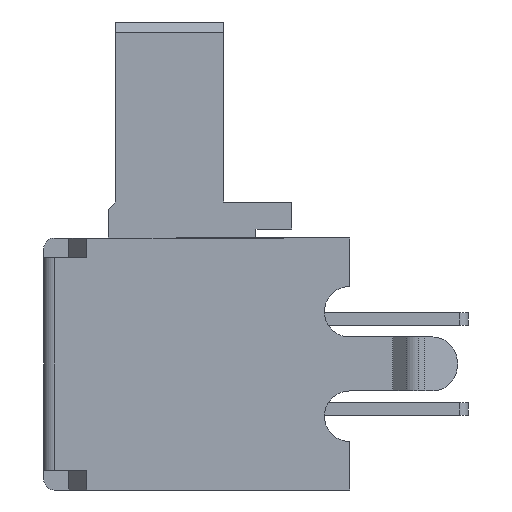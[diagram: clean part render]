
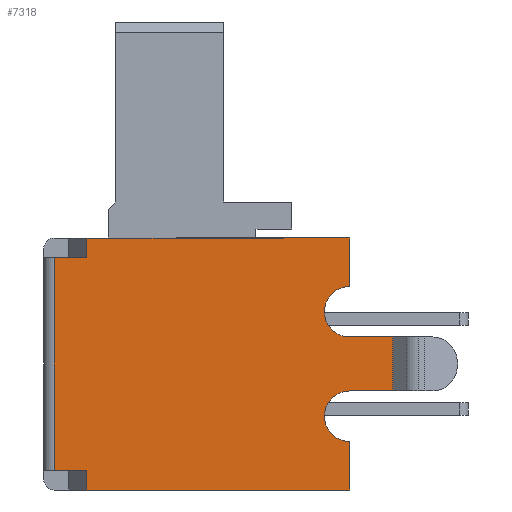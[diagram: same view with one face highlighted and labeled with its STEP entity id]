
A CAD part, left-side view. The second image highlights one B-rep face of the part: STEP entity #7318.
In plain terms, the highlighted planar face has unit normal (-1, 0, 0).
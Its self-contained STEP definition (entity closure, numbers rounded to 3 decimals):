
#119 = VERTEX_POINT ( 'NONE', #7612 ) ;
#2187 = CARTESIAN_POINT ( 'NONE',  ( -8.25, 7.3, -2.95 ) ) ;
#2207 = CARTESIAN_POINT ( 'NONE',  ( -8.25, 8.5, -2.95 ) ) ;
#2208 = LINE ( 'NONE', #2207, #2268 ) ;
#2222 = CARTESIAN_POINT ( 'NONE',  ( -8.25, 7.3, 2.95 ) ) ;
#2266 = CARTESIAN_POINT ( 'NONE',  ( -8.25, 8.2, -2.95 ) ) ;
#2267 = DIRECTION ( 'NONE',  ( 0., 1., 0. ) ) ;
#2268 = VECTOR ( 'NONE', #2267, 1000. ) ;
#2329 = DIRECTION ( 'NONE',  ( 0., -1., 0. ) ) ;
#2330 = VECTOR ( 'NONE', #2329, 1000. ) ;
#2331 = CARTESIAN_POINT ( 'NONE',  ( -8.25, 8.5, 2.95 ) ) ;
#2332 = LINE ( 'NONE', #2331, #2330 ) ;
#2333 = CARTESIAN_POINT ( 'NONE',  ( -8.25, 8.2, 2.95 ) ) ;
#5252 = LINE ( 'NONE', #5308, #5307 ) ;
#5253 = DIRECTION ( 'NONE',  ( 0., 1., 0. ) ) ;
#5254 = VECTOR ( 'NONE', #5253, 1000. ) ;
#5255 = CARTESIAN_POINT ( 'NONE',  ( -8.25, -1.2, -0.75 ) ) ;
#5256 = LINE ( 'NONE', #5255, #5254 ) ;
#5257 = CARTESIAN_POINT ( 'NONE',  ( -8.25, -1.2, -0.75 ) ) ;
#5258 = DIRECTION ( 'NONE',  ( 0., 0., -1. ) ) ;
#5259 = VECTOR ( 'NONE', #5258, 1000. ) ;
#5260 = CARTESIAN_POINT ( 'NONE',  ( -8.25, -1.2, 0.75 ) ) ;
#5261 = LINE ( 'NONE', #5260, #5259 ) ;
#5262 = CARTESIAN_POINT ( 'NONE',  ( -8.25, 0., -0.75 ) ) ;
#5263 = CARTESIAN_POINT ( 'NONE',  ( -8.25, 0., -3.5 ) ) ;
#5264 = CARTESIAN_POINT ( 'NONE',  ( -8.25, 0., -2.15 ) ) ;
#5265 = DIRECTION ( 'NONE',  ( 0., 0., -1. ) ) ;
#5266 = VECTOR ( 'NONE', #5265, 1000. ) ;
#5267 = CARTESIAN_POINT ( 'NONE',  ( -8.25, 7.3, -3. ) ) ;
#5268 = LINE ( 'NONE', #5267, #5266 ) ;
#5269 = CARTESIAN_POINT ( 'NONE',  ( -8.25, -1.2, 0.75 ) ) ;
#5286 = DIRECTION ( 'NONE',  ( 0., 0., 1. ) ) ;
#5287 = DIRECTION ( 'NONE',  ( -1., 0., 0. ) ) ;
#5288 = CARTESIAN_POINT ( 'NONE',  ( -8.25, 8., -3.5 ) ) ;
#5289 = AXIS2_PLACEMENT_3D ( 'NONE', #5288, #5287, #5286 ) ;
#5290 = PLANE ( 'NONE',  #5289 ) ;
#5291 = FACE_OUTER_BOUND ( 'NONE', #7311, .T. ) ;
#5306 = DIRECTION ( 'NONE',  ( 0., 1., 0. ) ) ;
#5307 = VECTOR ( 'NONE', #5306, 1000. ) ;
#5308 = CARTESIAN_POINT ( 'NONE',  ( -8.25, 7.3, -3.5 ) ) ;
#5345 = DIRECTION ( 'NONE',  ( 0., 0., 1. ) ) ;
#5346 = VECTOR ( 'NONE', #5345, 1000. ) ;
#5347 = CARTESIAN_POINT ( 'NONE',  ( -8.25, 7.3, 3. ) ) ;
#5348 = LINE ( 'NONE', #5347, #5346 ) ;
#5349 = CARTESIAN_POINT ( 'NONE',  ( -8.25, 0., 0.75 ) ) ;
#5372 = DIRECTION ( 'NONE',  ( 0., 0., -1. ) ) ;
#5373 = VECTOR ( 'NONE', #5372, 1000. ) ;
#5374 = CARTESIAN_POINT ( 'NONE',  ( -8.25, 8.2, -3.5 ) ) ;
#5375 = LINE ( 'NONE', #5374, #5373 ) ;
#5376 = CARTESIAN_POINT ( 'NONE',  ( -8.25, 0., 2.15 ) ) ;
#5377 = DIRECTION ( 'NONE',  ( 0., 0., -1. ) ) ;
#5378 = VECTOR ( 'NONE', #5377, 1000. ) ;
#5379 = CARTESIAN_POINT ( 'NONE',  ( -8.25, 0., 3.5 ) ) ;
#5380 = LINE ( 'NONE', #5379, #5378 ) ;
#5381 = CARTESIAN_POINT ( 'NONE',  ( -8.25, 7.3, 3.5 ) ) ;
#5382 = CARTESIAN_POINT ( 'NONE',  ( -8.25, 0., 3.5 ) ) ;
#5383 = DIRECTION ( 'NONE',  ( 0., 1., 0. ) ) ;
#5384 = VECTOR ( 'NONE', #5383, 1000. ) ;
#5385 = CARTESIAN_POINT ( 'NONE',  ( -8.25, -1.2, 0.75 ) ) ;
#5386 = LINE ( 'NONE', #5385, #5384 ) ;
#5387 = DIRECTION ( 'NONE',  ( 0., 1., 0. ) ) ;
#5388 = VECTOR ( 'NONE', #5387, 1000. ) ;
#5389 = CARTESIAN_POINT ( 'NONE',  ( -8.25, 7.3, 3.5 ) ) ;
#5390 = LINE ( 'NONE', #5389, #5388 ) ;
#5398 = DIRECTION ( 'NONE',  ( 0., 0., -1. ) ) ;
#5399 = DIRECTION ( 'NONE',  ( -1., 0., 0. ) ) ;
#5400 = CARTESIAN_POINT ( 'NONE',  ( -8.25, 0., 1.45 ) ) ;
#5401 = AXIS2_PLACEMENT_3D ( 'NONE', #5400, #5399, #5398 ) ;
#5402 = CIRCLE ( 'NONE', #5401, 0.7 ) ;
#5423 = DIRECTION ( 'NONE',  ( 0., 0., 1. ) ) ;
#5424 = DIRECTION ( 'NONE',  ( -1., 0., 0. ) ) ;
#5425 = CARTESIAN_POINT ( 'NONE',  ( -8.25, 0., -1.45 ) ) ;
#5426 = AXIS2_PLACEMENT_3D ( 'NONE', #5425, #5424, #5423 ) ;
#5427 = CIRCLE ( 'NONE', #5426, 0.7 ) ;
#5428 = DIRECTION ( 'NONE',  ( 0., 0., -1. ) ) ;
#5429 = VECTOR ( 'NONE', #5428, 1000. ) ;
#5430 = CARTESIAN_POINT ( 'NONE',  ( -8.25, 0., -3.5 ) ) ;
#5431 = LINE ( 'NONE', #5430, #5429 ) ;
#6308 = VERTEX_POINT ( 'NONE', #2187 ) ;
#6320 = VERTEX_POINT ( 'NONE', #2222 ) ;
#6331 = EDGE_CURVE ( 'NONE', #6308, #6332, #2208, .T. ) ;
#6332 = VERTEX_POINT ( 'NONE', #2266 ) ;
#6366 = VERTEX_POINT ( 'NONE', #2333 ) ;
#6368 = EDGE_CURVE ( 'NONE', #6366, #6320, #2332, .T. ) ;
#7295 = ORIENTED_EDGE ( 'NONE', *, *, #7307, .F. ) ;
#7296 = ORIENTED_EDGE ( 'NONE', *, *, #7384, .F. ) ;
#7297 = VERTEX_POINT ( 'NONE', #5269 ) ;
#7298 = EDGE_CURVE ( 'NONE', #6308, #119, #5268, .T. ) ;
#7299 = ORIENTED_EDGE ( 'NONE', *, *, #7298, .T. ) ;
#7300 = VERTEX_POINT ( 'NONE', #5264 ) ;
#7301 = VERTEX_POINT ( 'NONE', #5263 ) ;
#7302 = VERTEX_POINT ( 'NONE', #5262 ) ;
#7303 = ORIENTED_EDGE ( 'NONE', *, *, #7382, .F. ) ;
#7304 = ORIENTED_EDGE ( 'NONE', *, *, #7305, .F. ) ;
#7305 = EDGE_CURVE ( 'NONE', #7297, #7306, #5261, .T. ) ;
#7306 = VERTEX_POINT ( 'NONE', #5257 ) ;
#7307 = EDGE_CURVE ( 'NONE', #7306, #7302, #5256, .T. ) ;
#7308 = EDGE_CURVE ( 'NONE', #7301, #119, #5252, .T. ) ;
#7311 = EDGE_LOOP ( 'NONE', ( #7383, #7299, #7381, #7303, #7296, #7295, #7304, #7368, #7359, #7370, #7372, #7380, #7366, #7376 ) ) ;
#7318 = ADVANCED_FACE ( 'NONE', ( #5291 ), #5290, .T. ) ;
#7355 = VERTEX_POINT ( 'NONE', #5349 ) ;
#7356 = EDGE_CURVE ( 'NONE', #6320, #7373, #5348, .T. ) ;
#7359 = ORIENTED_EDGE ( 'NONE', *, *, #7362, .F. ) ;
#7362 = EDGE_CURVE ( 'NONE', #7375, #7355, #5402, .T. ) ;
#7366 = ORIENTED_EDGE ( 'NONE', *, *, #6368, .F. ) ;
#7367 = EDGE_CURVE ( 'NONE', #7371, #7373, #5390, .T. ) ;
#7368 = ORIENTED_EDGE ( 'NONE', *, *, #7369, .T. ) ;
#7369 = EDGE_CURVE ( 'NONE', #7297, #7355, #5386, .T. ) ;
#7370 = ORIENTED_EDGE ( 'NONE', *, *, #7374, .F. ) ;
#7371 = VERTEX_POINT ( 'NONE', #5382 ) ;
#7372 = ORIENTED_EDGE ( 'NONE', *, *, #7367, .T. ) ;
#7373 = VERTEX_POINT ( 'NONE', #5381 ) ;
#7374 = EDGE_CURVE ( 'NONE', #7371, #7375, #5380, .T. ) ;
#7375 = VERTEX_POINT ( 'NONE', #5376 ) ;
#7376 = ORIENTED_EDGE ( 'NONE', *, *, #7377, .T. ) ;
#7377 = EDGE_CURVE ( 'NONE', #6366, #6332, #5375, .T. ) ;
#7380 = ORIENTED_EDGE ( 'NONE', *, *, #7356, .F. ) ;
#7381 = ORIENTED_EDGE ( 'NONE', *, *, #7308, .F. ) ;
#7382 = EDGE_CURVE ( 'NONE', #7300, #7301, #5431, .T. ) ;
#7383 = ORIENTED_EDGE ( 'NONE', *, *, #6331, .F. ) ;
#7384 = EDGE_CURVE ( 'NONE', #7302, #7300, #5427, .T. ) ;
#7612 = CARTESIAN_POINT ( 'NONE',  ( -8.25, 7.3, -3.5 ) ) ;
